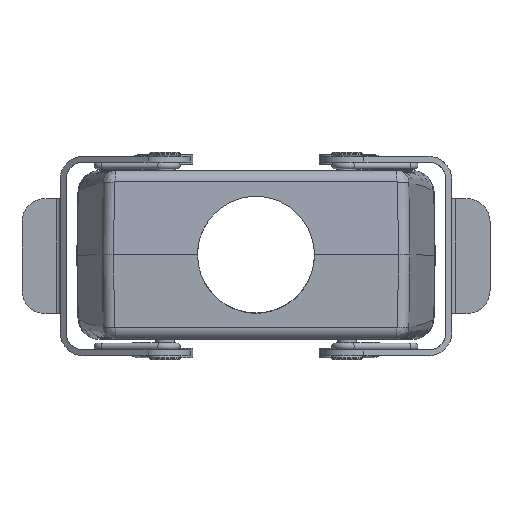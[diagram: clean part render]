
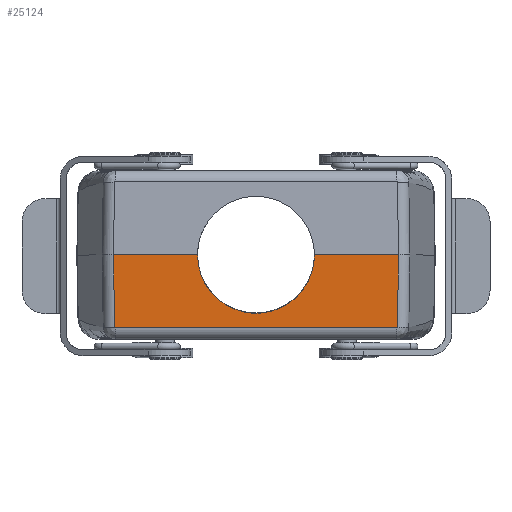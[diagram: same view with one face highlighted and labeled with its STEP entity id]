
A CAD part, top view. The second image highlights one B-rep face of the part: STEP entity #25124.
In plain terms, the highlighted planar face has unit normal (0, -0.018, 1).
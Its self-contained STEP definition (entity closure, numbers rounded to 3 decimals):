
#2 = DIRECTION ( 'NONE',  ( -1., 0., 0. ) ) ;
#213 = CARTESIAN_POINT ( 'NONE',  ( 67.584, 24.316, 107.894 ) ) ;
#1126 = LINE ( 'NONE', #17135, #8759 ) ;
#1226 = CARTESIAN_POINT ( 'NONE',  ( -6.193, 24.313, 107.894 ) ) ;
#1340 = EDGE_CURVE ( 'NONE', #25351, #6158, #17364, .T. ) ;
#1747 = CARTESIAN_POINT ( 'NONE',  ( -6.208, 24.38, 107.895 ) ) ;
#2330 = CARTESIAN_POINT ( 'NONE',  ( -6.112, 24.251, 107.893 ) ) ;
#2570 = CARTESIAN_POINT ( 'NONE',  ( -6.208, 24.38, 107.895 ) ) ;
#3221 = VERTEX_POINT ( 'NONE', #15387 ) ;
#3758 = VERTEX_POINT ( 'NONE', #4620 ) ;
#4285 = EDGE_CURVE ( 'NONE', #21620, #6158, #24222, .T. ) ;
#4380 = CARTESIAN_POINT ( 'NONE',  ( -6.485, 43.303, 108.225 ) ) ;
#4620 = CARTESIAN_POINT ( 'NONE',  ( 67.46, 24.251, 107.893 ) ) ;
#4774 = CARTESIAN_POINT ( 'NONE',  ( -6.392, 36.996, 108.115 ) ) ;
#4880 = FACE_OUTER_BOUND ( 'NONE', #6689, .T. ) ;
#5061 = DIRECTION ( 'NONE',  ( -1., 0., 0. ) ) ;
#5270 = CARTESIAN_POINT ( 'NONE',  ( 67.875, 43.303, 108.225 ) ) ;
#5439 = B_SPLINE_CURVE_WITH_KNOTS ( 'NONE', 3,
 ( #1747, #20880, #4774, #4380 ),
 .UNSPECIFIED., .F., .F.,
 ( 4, 4 ),
 ( 0., 1. ),
 .UNSPECIFIED. ) ;
#6158 = VERTEX_POINT ( 'NONE', #21150 ) ;
#6292 = CARTESIAN_POINT ( 'NONE',  ( -6.143, 24.264, 107.893 ) ) ;
#6312 = LINE ( 'NONE', #5270, #27593 ) ;
#6610 = CARTESIAN_POINT ( 'NONE',  ( -35.502, 43.303, 108.225 ) ) ;
#6689 = EDGE_LOOP ( 'NONE', ( #23562, #8067, #7121, #25429, #30093, #15553, #10240, #11491 ) ) ;
#6753 = EDGE_CURVE ( 'NONE', #20285, #3221, #11631, .T. ) ;
#7016 = VERTEX_POINT ( 'NONE', #19272 ) ;
#7121 = ORIENTED_EDGE ( 'NONE', *, *, #20594, .F. ) ;
#7420 = CARTESIAN_POINT ( 'NONE',  ( -6.208, 24.38, 107.895 ) ) ;
#8067 = ORIENTED_EDGE ( 'NONE', *, *, #12857, .T. ) ;
#8587 = DIRECTION ( 'NONE',  ( 0., -0.017, 1. ) ) ;
#8759 = VECTOR ( 'NONE', #21484, 1000. ) ;
#9264 = VECTOR ( 'NONE', #2, 1000. ) ;
#9451 = CARTESIAN_POINT ( 'NONE',  ( 30.695, 43.303, 108.225 ) ) ;
#10240 = ORIENTED_EDGE ( 'NONE', *, *, #24145, .F. ) ;
#10357 = VECTOR ( 'NONE', #5061, 1000. ) ;
#10933 = DIRECTION ( 'NONE',  ( 0., -1., -0.017 ) ) ;
#11195 = AXIS2_PLACEMENT_3D ( 'NONE', #9451, #18837, #11932 ) ;
#11491 = ORIENTED_EDGE ( 'NONE', *, *, #1340, .T. ) ;
#11631 = B_SPLINE_CURVE_WITH_KNOTS ( 'NONE', 3,
 ( #7420, #24545, #1226, #6292, #2330, #30306 ),
 .UNSPECIFIED., .F., .F.,
 ( 4, 2, 4 ),
 ( 0., 0.5, 1. ),
 .UNSPECIFIED. ) ;
#11836 = CARTESIAN_POINT ( 'NONE',  ( 67.53, 24.265, 107.893 ) ) ;
#11932 = DIRECTION ( 'NONE',  ( 0., -1., -0.017 ) ) ;
#11959 = EDGE_CURVE ( 'NONE', #3221, #3758, #1126, .T. ) ;
#12021 = CARTESIAN_POINT ( 'NONE',  ( 67.875, 43.303, 108.225 ) ) ;
#12381 = VERTEX_POINT ( 'NONE', #17014 ) ;
#12857 = EDGE_CURVE ( 'NONE', #21620, #12381, #18478, .T. ) ;
#13216 = PLANE ( 'NONE',  #23600 ) ;
#14167 = CARTESIAN_POINT ( 'NONE',  ( -35.502, 43.303, 108.225 ) ) ;
#14286 = CARTESIAN_POINT ( 'NONE',  ( 67.598, 24.386, 107.895 ) ) ;
#15387 = CARTESIAN_POINT ( 'NONE',  ( -6.076, 24.251, 107.893 ) ) ;
#15553 = ORIENTED_EDGE ( 'NONE', *, *, #25432, .T. ) ;
#16569 = CARTESIAN_POINT ( 'NONE',  ( 67.597, 24.348, 107.894 ) ) ;
#17014 = CARTESIAN_POINT ( 'NONE',  ( -6.485, 43.303, 108.225 ) ) ;
#17135 = CARTESIAN_POINT ( 'NONE',  ( -35.502, 24.251, 107.893 ) ) ;
#17364 = LINE ( 'NONE', #14167, #10357 ) ;
#18478 = LINE ( 'NONE', #6610, #9264 ) ;
#18837 = DIRECTION ( 'NONE',  ( 0., -0.017, 1. ) ) ;
#19272 = CARTESIAN_POINT ( 'NONE',  ( 67.598, 24.386, 107.895 ) ) ;
#20285 = VERTEX_POINT ( 'NONE', #2570 ) ;
#20594 = EDGE_CURVE ( 'NONE', #20285, #12381, #5439, .T. ) ;
#20880 = CARTESIAN_POINT ( 'NONE',  ( -6.3, 30.688, 108.005 ) ) ;
#21150 = CARTESIAN_POINT ( 'NONE',  ( 45.945, 43.303, 108.225 ) ) ;
#21484 = DIRECTION ( 'NONE',  ( 1., 0., 0. ) ) ;
#21620 = VERTEX_POINT ( 'NONE', #29319 ) ;
#21713 = CARTESIAN_POINT ( 'NONE',  ( 67.46, 24.251, 107.893 ) ) ;
#22473 = CARTESIAN_POINT ( 'NONE',  ( -35.502, 43.303, 108.225 ) ) ;
#23562 = ORIENTED_EDGE ( 'NONE', *, *, #4285, .F. ) ;
#23600 = AXIS2_PLACEMENT_3D ( 'NONE', #22473, #8587, #10933 ) ;
#23704 = DIRECTION ( 'NONE',  ( -0.015, -1., -0.017 ) ) ;
#24145 = EDGE_CURVE ( 'NONE', #25351, #7016, #6312, .T. ) ;
#24222 = CIRCLE ( 'NONE', #11195, 15.25 ) ;
#24545 = CARTESIAN_POINT ( 'NONE',  ( -6.207, 24.344, 107.894 ) ) ;
#25124 = ADVANCED_FACE ( 'NONE', ( #4880 ), #13216, .T. ) ;
#25351 = VERTEX_POINT ( 'NONE', #12021 ) ;
#25429 = ORIENTED_EDGE ( 'NONE', *, *, #6753, .T. ) ;
#25432 = EDGE_CURVE ( 'NONE', #3758, #7016, #26547, .T. ) ;
#26547 = B_SPLINE_CURVE_WITH_KNOTS ( 'NONE', 3,
 ( #21713, #28668, #11836, #213, #16569, #14286 ),
 .UNSPECIFIED., .F., .F.,
 ( 4, 2, 4 ),
 ( 0., 0.5, 1. ),
 .UNSPECIFIED. ) ;
#27593 = VECTOR ( 'NONE', #23704, 1000. ) ;
#28668 = CARTESIAN_POINT ( 'NONE',  ( 67.497, 24.251, 107.893 ) ) ;
#29319 = CARTESIAN_POINT ( 'NONE',  ( 15.445, 43.303, 108.225 ) ) ;
#30093 = ORIENTED_EDGE ( 'NONE', *, *, #11959, .T. ) ;
#30306 = CARTESIAN_POINT ( 'NONE',  ( -6.076, 24.251, 107.893 ) ) ;
